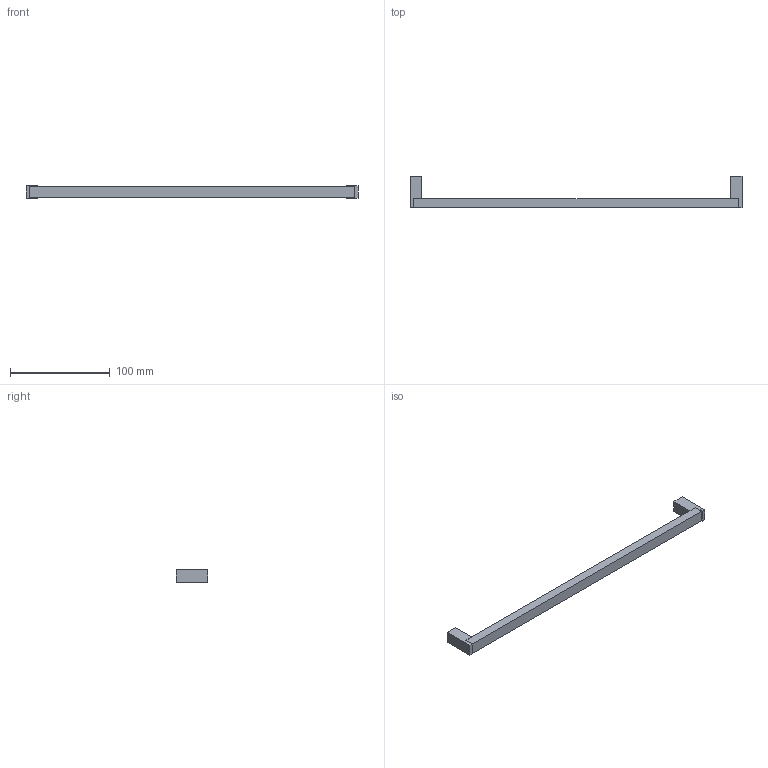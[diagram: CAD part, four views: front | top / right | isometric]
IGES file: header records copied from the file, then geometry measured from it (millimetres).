
Start section: Data from Parasolid IGES Translator 15.0.47, Copyright(c) 2006 Siemens P LM Software. All Rights Reserved.
Global section: file name: 9208080.igs; native system:  By UGS Corp.; preprocessor: XPlus GENERIC/IGES 3.0; author: Noname; organization: Noname; date: 20151216.173525; units: millimetre
Bounding box: 333 x 32 x 12.15 mm (x, y, z)
Surface area: 16615.8 mm2 (no closed solid volume)
Topology: 0 solids, 0 shells, 26 faces, 124 edges, 122 vertices
Faces by surface type: extrusion 24, revolution 2
